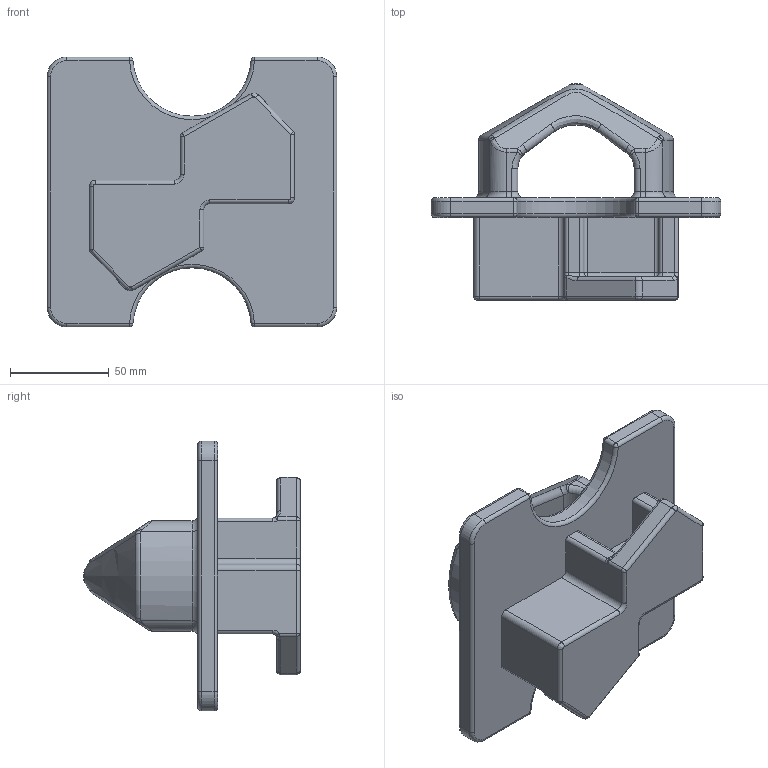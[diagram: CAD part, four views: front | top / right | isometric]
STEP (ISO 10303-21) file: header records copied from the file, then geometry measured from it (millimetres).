
FILE_DESCRIPTION(/* description */ (''),/* implementation_level */ '2;1');
FILE_NAME(/* name */ 'O:\ils2000\Natallia\INVENTOR\AutoCAD stp\NAVACQS\IF-91.stp',/* time_stamp */ '2016-08-12T11:49:55+02:00',/* author */ ('natallia'),/* organization */ (''),/* preprocessor_version */ 'ST-DEVELOPER v16.5',/* originating_system */ 'Autodesk Inventor 2017',/* authorisation */ '');
FILE_SCHEMA (('AUTOMOTIVE_DESIGN { 1 0 10303 214 3 1 1 }'));
Length unit declared in the file: millimetre
Products named in the file (1): IF-91
Bounding box: 147 x 110 x 137 mm (x, y, z)
Volume: 405594.6 mm3; surface area: 75812.7 mm2
Topology: 1 solids, 1 shells, 396 faces, 960 edges, 575 vertices
Faces by surface type: cylinder 121, plane 117, bspline 95, torus 38, sphere 24, cone 1
Entity records: 13803 total; most frequent: CARTESIAN_POINT 4821, ORIENTED_EDGE 1916, DIRECTION 1804, EDGE_CURVE 958, AXIS2_PLACEMENT_3D 676, VERTEX_POINT 574, LINE 452, VECTOR 452
